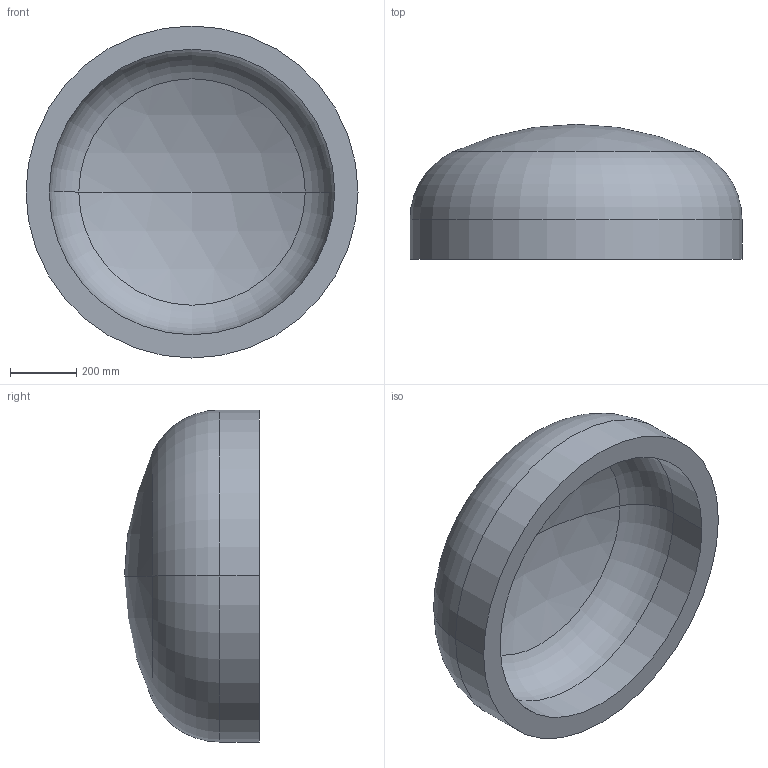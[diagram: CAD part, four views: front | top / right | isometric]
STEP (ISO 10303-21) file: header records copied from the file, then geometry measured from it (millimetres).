
FILE_DESCRIPTION (( 'STEP AP203' ), '1' );
FILE_NAME ('DIN 28013 Korbbogenform_-_Boden DIN 28013 - 1000 x 120 - I - s=70.step', '2016-07-01T08:53:16', ( '' ), ( '' ), 'SwSTEP 2.0', 'SolidWorks 2013', '' );
FILE_SCHEMA (( 'CONFIG_CONTROL_DESIGN' ));
Length unit declared in the file: millimetre
Products named in the file (1): DIN 28013 Korbbogenform_-_Boden DIN 28013 - 1000 x 120 - I - s=70
Bounding box: 1000 x 406.56 x 1000 mm (x, y, z)
Volume: 94328509.1 mm3; surface area: 2909880 mm2
Topology: 1 solids, 1 shells, 13 faces, 24 edges, 14 vertices
Faces by surface type: torus 4, cylinder 4, sphere 4, plane 1
Entity records: 407 total; most frequent: DIRECTION 72, CARTESIAN_POINT 52, ORIENTED_EDGE 48, AXIS2_PLACEMENT_3D 34, EDGE_CURVE 24, CIRCLE 20, EDGE_LOOP 14, VERTEX_POINT 14
